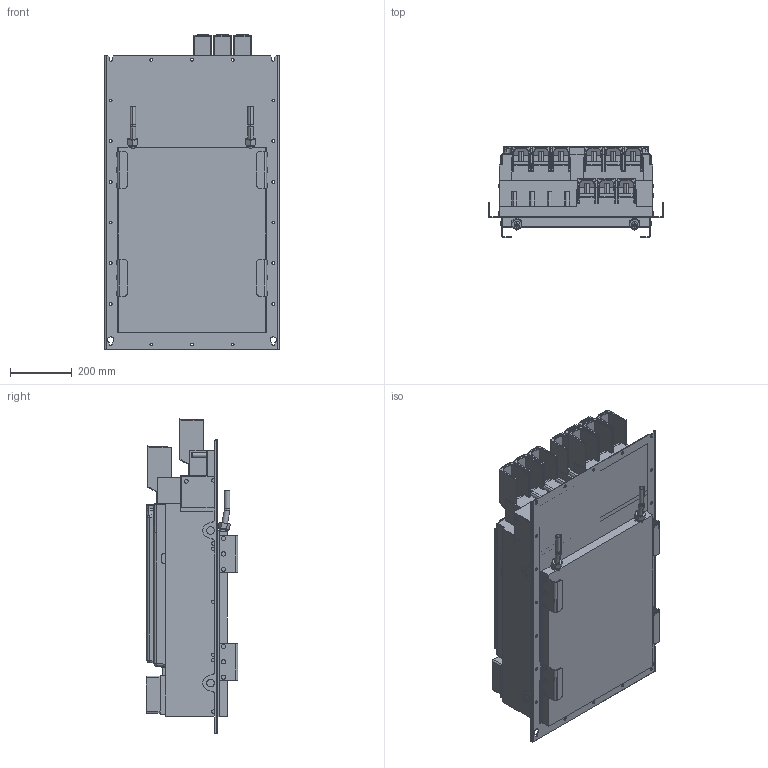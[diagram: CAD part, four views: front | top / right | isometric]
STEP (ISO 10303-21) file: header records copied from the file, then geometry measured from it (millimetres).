
FILE_DESCRIPTION (( 'STEP AP214' ), '1' );
FILE_NAME ('F6-9-TK5-P050.STEP', '2023-11-27T10:13:08', ( '' ), ( '' ), 'SwSTEP 2.0', 'SolidWorks 2022', '' );
FILE_SCHEMA (( 'AUTOMOTIVE_DESIGN' ));
Length unit declared in the file: millimetre
Products named in the file (12): Kundenmodell^10049764_000; 10068280_000_Kundenmodell; 10049764_000_Kundenmodell; Kundenmodell^10059764_000; F6-9-TK5-P050; 10064843_000_Kundenmodell ; Kundenmodell^10068280_000; 10051076_000_Kundenmodell; Kundenmodell^10054881_000; 10054881_000_Deckel (Kundenmodell); 10059764_000_Blindabdeckung (Kundenmodell); Kundenmodell^10051076_000_Kundenmodell mit Geberbuchsen
Assembly tree (11 placements, depth 4):
  F6-9-TK5-P050
    10064843_000_Kundenmodell 
      10068280_000_Kundenmodell
        Kundenmodell^10068280_000
    10049764_000_Kundenmodell
      Kundenmodell^10049764_000
    10051076_000_Kundenmodell
      10059764_000_Blindabdeckung (Kundenmodell)
        Kundenmodell^10059764_000
      Kundenmodell^10051076_000_Kundenmodell mit Geberbuchsen
    10054881_000_Deckel (Kundenmodell)
      Kundenmodell^10054881_000
Bounding box: 566 x 296.5 x 1024.88 mm (x, y, z)
Volume: 93813857.3 mm3; surface area: 4201123.1 mm2
Topology: 5 solids, 7 shells, 2809 faces, 7275 edges, 4544 vertices
Faces by surface type: plane 1273, cylinder 925, bspline 266, cone 180, sphere 92, torus 73
Entity records: 93955 total; most frequent: CARTESIAN_POINT 27006, ORIENTED_EDGE 14382, DIRECTION 13267, EDGE_CURVE 7191, VERTEX_POINT 4544, AXIS2_PLACEMENT_3D 4509, LINE 4249, VECTOR 4249
